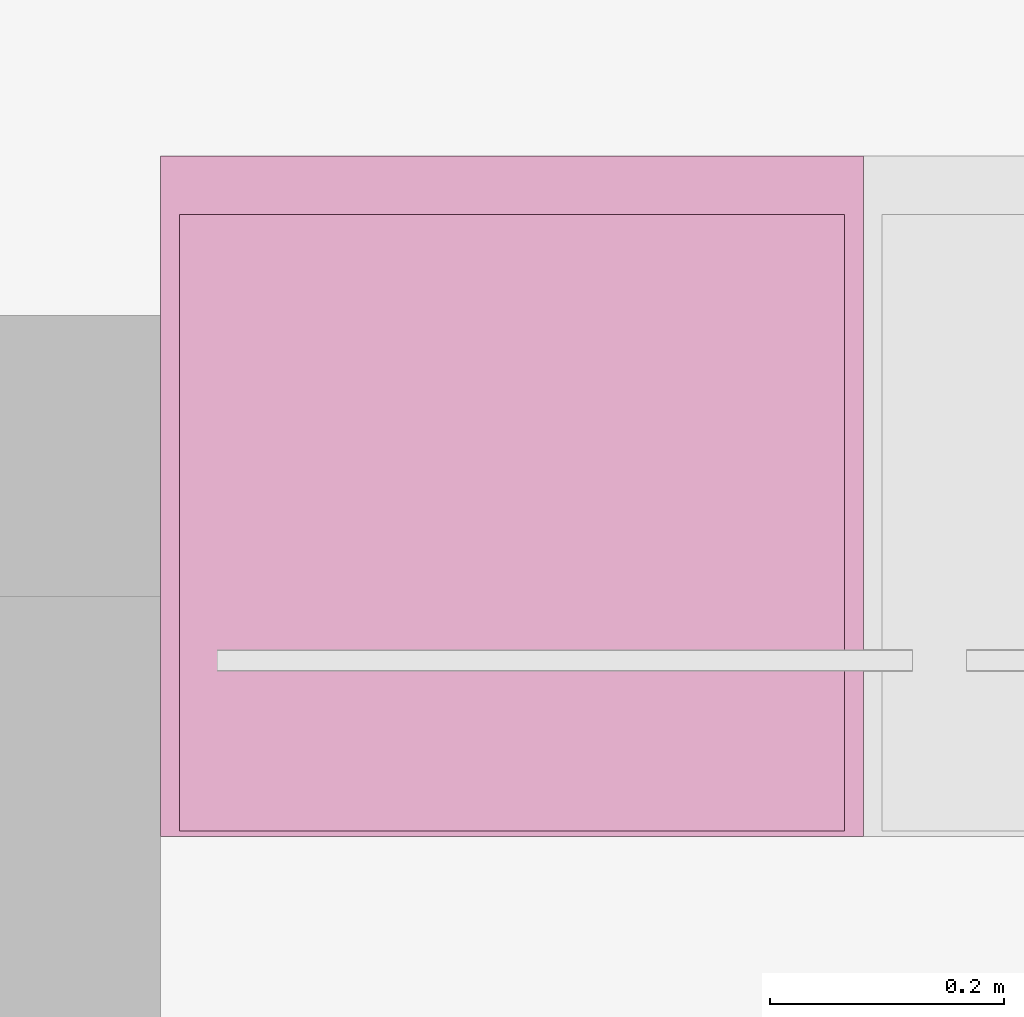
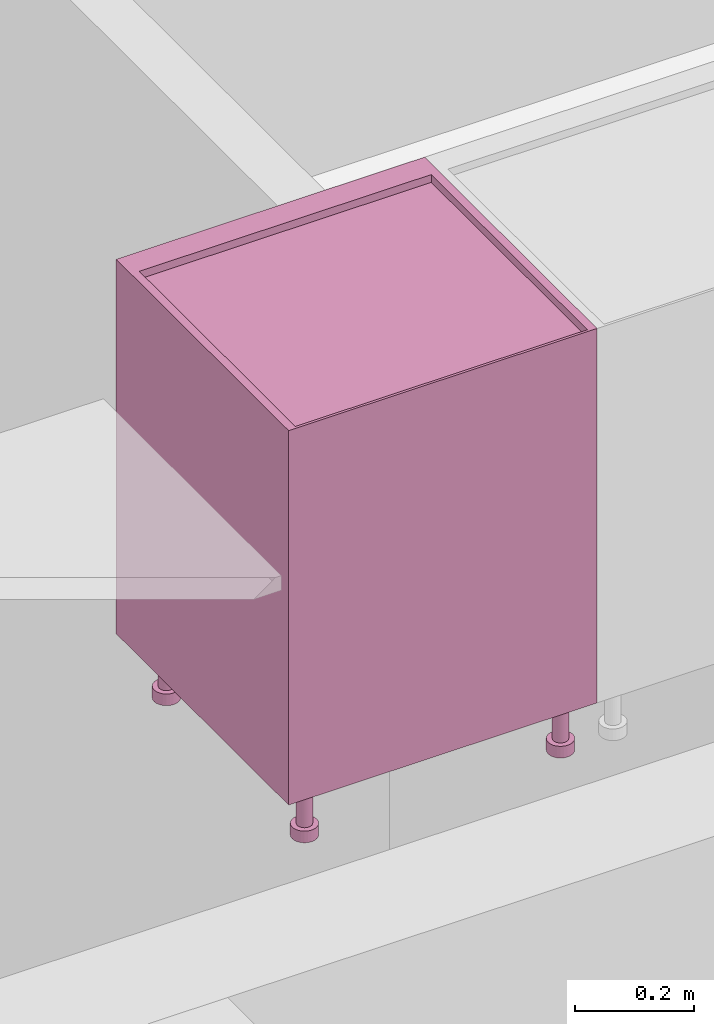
# One storey, part 32 of 68: 1 furnishing.
"""IFC2X3 building model written with IfcOpenShell, lengths in millimetres."""

from ifc_helpers import new_model, entity, si_unit, converted_unit, direction, frame, origin, place, context, subcontext, project, spatial, faceted_brep, source, transform, mapped, material, type_object, type_shapes, element, save


model = new_model("IFC2X3")

# Units and contexts
model_context = context("Model", 3, precision=0.01, world=origin(), true_north=direction((6.123233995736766e-17, 1.0)))
plan_context = context("Plan", 3, precision=0.01, world=origin(), true_north=direction((6.123233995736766e-17, 1.0)))
body_context = subcontext(model_context, "Body", "Model", "MODEL_VIEW")
ifc_project = project(units=[si_unit("LENGTHUNIT", "METRE", prefix="MILLI"), converted_unit("PLANEANGLEUNIT", "DEGREE", entity("IfcPlaneAngleMeasure", 0.017453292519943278), si_unit("PLANEANGLEUNIT", "RADIAN"), dimensions=[0, 0, 0, 0, 0, 0, 0]), si_unit("AREAUNIT", "SQUARE_METRE")], contexts=[model_context, plan_context])

# Site, building, storey, space
site_placement = place(None, origin())
site = spatial("IfcSite", under=ifc_project, at=site_placement, Name="Default", CompositionType="ELEMENT")
building_placement = place(site_placement, origin())
building = spatial("IfcBuilding", under=site, at=building_placement, CompositionType="ELEMENT")
storey_placement = place(building_placement, frame((0.0, 0.0, 6295.0)))
storey = spatial("IfcBuildingStorey", under=building, at=storey_placement, Name="3K", CompositionType="ELEMENT", Elevation=6294.999999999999)
space_placement = place(storey_placement, origin())
space = spatial("IfcSpace", under=storey, at=space_placement, Name="3-7.1", CompositionType="ELEMENT", InteriorOrExteriorSpace="INTERNAL")

# Furnishing
ifc_material = material(Name="<Unnamed>")
furniture_type = type_object("IfcFurnitureType", Name="HR_Casework_Kitchen_Generic_Appliance_v3:Dishwasher", AssemblyPlace="NOTDEFINED", material=ifc_material)
shared_shape = source(origin(), body_context, "Body", "Brep", [
    faceted_brep([(305.7003264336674, -585.7846096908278, -3101.0), (310.6708891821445, -581.9705627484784, -3101.0), (300.70032643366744, -577.1243556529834, -3101.0), (297.32379306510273, -578.5229615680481, -3101.0), (299.91198351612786, -588.1822198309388, -3101.0), (303.59982137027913, -574.8994949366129, -3101.0), (314.4849361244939, -577.0, -3101.0), (305.82468208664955, -572.0, -3101.0), (307.2232880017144, -568.6234666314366, -3101.0), (316.8825462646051, -571.2116570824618, -3101.0), (307.70032643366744, -565.0, -3101.0), (317.7003264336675, -565.0, -3101.0), (307.2232880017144, -561.3765333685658, -3101.0), (316.88254626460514, -558.7883429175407, -3101.0), (305.82468208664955, -558.0, -3101.0), (314.484936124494, -553.0, -3101.0), (303.59982137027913, -555.1005050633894, -3101.0), (310.67088918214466, -548.0294372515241, -3101.0), (300.70032643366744, -552.875644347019, -3101.0), (305.7003264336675, -544.2153903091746, -3101.0), (297.32379306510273, -551.4770384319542, -3101.0), (299.91198351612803, -541.8177801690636, -3101.0), (293.7003264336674, -551.0, -3101.0), (293.70032643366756, -541.0, -3101.0), (290.07685980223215, -551.4770384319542, -3101.0), (287.488669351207, -541.8177801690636, -3101.0), (286.70032643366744, -552.875644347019, -3101.0), (281.7003264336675, -544.2153903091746, -3101.0), (283.80083149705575, -555.1005050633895, -3101.0), (276.7297636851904, -548.029437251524, -3101.0), (281.5759707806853, -558.0, -3101.0), (272.91571674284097, -553.0, -3101.0), (270.51810660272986, -558.7883429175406, -3101.0), (280.1773648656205, -561.3765333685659, -3101.0), (269.7003264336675, -565.0, -3101.0), (279.7003264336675, -565.0, -3101.0), (270.51810660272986, -571.2116570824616, -3101.0), (280.1773648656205, -568.6234666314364, -3101.0), (272.9157167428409, -577.0, -3101.0), (281.57597078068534, -572.0, -3101.0), (276.7297636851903, -581.9705627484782, -3101.0), (283.80083149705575, -574.8994949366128, -3101.0), (281.70032643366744, -585.7846096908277, -3101.0), (286.70032643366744, -577.1243556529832, -3101.0), (287.4886693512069, -588.1822198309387, -3101.0), (290.07685980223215, -578.5229615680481, -3101.0), (293.7003264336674, -589.0, -3101.0), (293.70032643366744, -579.0, -3101.0), (299.91198351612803, -541.8177801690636, -3125.0), (305.7003264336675, -544.2153903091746, -3125.0), (310.67088918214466, -548.0294372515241, -3125.0), (314.484936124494, -553.0, -3125.0), (316.88254626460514, -558.7883429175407, -3125.0), (317.7003264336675, -565.0, -3125.0), (316.8825462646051, -571.2116570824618, -3125.0), (314.4849361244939, -577.0, -3125.0), (310.6708891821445, -581.9705627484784, -3125.0), (305.7003264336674, -585.7846096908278, -3125.0), (299.91198351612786, -588.1822198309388, -3125.0), (293.7003264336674, -589.0, -3125.0), (287.4886693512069, -588.1822198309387, -3125.0), (281.70032643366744, -585.7846096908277, -3125.0), (276.7297636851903, -581.9705627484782, -3125.0), (272.9157167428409, -577.0, -3125.0), (270.51810660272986, -571.2116570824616, -3125.0), (269.7003264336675, -565.0, -3125.0), (270.51810660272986, -558.7883429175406, -3125.0), (272.91571674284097, -553.0, -3125.0), (276.7297636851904, -548.029437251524, -3125.0), (281.7003264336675, -544.2153903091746, -3125.0), (287.488669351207, -541.8177801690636, -3125.0), (293.70032643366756, -541.0, -3125.0), (297.32379306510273, -578.5229615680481, -3025.0), (300.70032643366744, -577.1243556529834, -3025.0), (303.59982137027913, -574.8994949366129, -3025.0), (305.8246820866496, -572.0, -3025.0), (307.2232880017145, -568.6234666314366, -3025.0), (307.70032643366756, -565.0, -3025.0), (307.2232880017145, -561.3765333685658, -3025.0), (305.8246820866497, -558.0, -3025.0), (303.5998213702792, -555.1005050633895, -3025.0), (300.70032643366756, -552.875644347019, -3025.0), (297.32379306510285, -551.4770384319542, -3025.0), (293.70032643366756, -551.0, -3025.0), (290.07685980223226, -551.4770384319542, -3025.0), (286.70032643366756, -552.875644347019, -3025.0), (283.80083149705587, -555.1005050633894, -3025.0), (281.5759707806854, -558.0, -3025.0), (280.1773648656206, -561.3765333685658, -3025.0), (279.70032643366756, -565.0, -3025.0), (280.1773648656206, -568.6234666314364, -3025.0), (281.5759707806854, -572.0, -3025.0), (283.8008314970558, -574.8994949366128, -3025.0), (286.7003264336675, -577.1243556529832, -3025.0), (290.07685980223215, -578.5229615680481, -3025.0), (293.70032643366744, -579.0, -3025.0)], [[[0, 1, 2]], [[0, 2, 3]], [[3, 4, 0]], [[2, 1, 5]], [[6, 5, 1]], [[7, 5, 6]], [[8, 7, 6]], [[8, 6, 9]], [[8, 9, 10]], [[10, 9, 11]], [[12, 10, 11]], [[12, 11, 13]], [[14, 12, 13]], [[14, 13, 15]], [[16, 14, 15]], [[15, 17, 16]], [[17, 18, 16]], [[18, 17, 19]], [[18, 19, 20]], [[21, 20, 19]], [[20, 21, 22]], [[22, 21, 23]], [[23, 24, 22]], [[24, 23, 25]], [[24, 25, 26]], [[27, 26, 25]], [[27, 28, 26]], [[27, 29, 28]], [[30, 28, 29]], [[31, 30, 29]], [[32, 30, 31]], [[33, 30, 32]], [[33, 32, 34]], [[34, 35, 33]], [[36, 35, 34]], [[36, 37, 35]], [[37, 36, 38]], [[39, 37, 38]], [[39, 38, 40]], [[39, 40, 41]], [[40, 42, 41]], [[41, 42, 43]], [[43, 42, 44]], [[44, 45, 43]], [[46, 45, 44]], [[4, 47, 46]], [[45, 46, 47]], [[4, 3, 47]], [[48, 49, 50, 51, 52, 53, 54, 55, 56, 57, 58, 59, 60, 61, 62, 63, 64, 65, 66, 67, 68, 69, 70, 71]], [[64, 36, 34, 65]], [[63, 38, 36, 64]], [[42, 40, 62, 61]], [[63, 62, 40, 38]], [[44, 42, 61, 60]], [[46, 44, 60, 59]], [[58, 4, 46, 59]], [[57, 0, 4, 58]], [[54, 53, 11, 9]], [[1, 0, 57, 56]], [[6, 55, 54, 9]], [[6, 1, 56, 55]], [[52, 13, 11, 53]], [[51, 15, 13, 52]], [[19, 17, 50, 49]], [[51, 50, 17, 15]], [[21, 19, 49, 48]], [[23, 21, 48, 71]], [[27, 69, 68, 29]], [[31, 67, 66, 32]], [[68, 67, 31, 29]], [[32, 66, 65, 34]], [[25, 70, 69, 27]], [[70, 25, 23, 71]], [[72, 73, 74, 75, 76, 77, 78, 79, 80, 81, 82, 83, 84, 85, 86, 87, 88, 89, 90, 91, 92, 93, 94, 95]], [[37, 39, 91, 90]], [[35, 37, 90, 89]], [[43, 45, 94, 93]], [[41, 43, 93, 92]], [[39, 41, 92, 91]], [[47, 95, 94, 45]], [[2, 5, 74, 73]], [[3, 2, 73, 72]], [[8, 10, 77, 76]], [[7, 8, 76, 75]], [[5, 7, 75, 74]], [[3, 72, 95, 47]], [[79, 78, 12, 14]], [[78, 77, 10, 12]], [[80, 16, 18, 81]], [[16, 80, 79, 14]], [[81, 18, 20, 82]], [[22, 83, 82, 20]], [[26, 28, 86, 85]], [[24, 26, 85, 84]], [[33, 35, 89, 88]], [[30, 33, 88, 87]], [[28, 30, 87, 86]], [[24, 84, 83, 22]]]),
    faceted_brep([(-192.29967356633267, -585.7846096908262, -3101.0), (-187.3291108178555, -581.9705627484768, -3101.0), (-197.29967356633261, -577.1243556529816, -3101.0), (-200.67620693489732, -578.5229615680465, -3101.0), (-198.08801648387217, -588.1822198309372, -3101.0), (-194.40017862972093, -574.8994949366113, -3101.0), (-183.51506387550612, -577.0, -3101.0), (-192.17531791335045, -572.0, -3101.0), (-190.77671199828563, -568.6234666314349, -3101.0), (-181.11745373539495, -571.2116570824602, -3101.0), (-190.29967356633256, -565.0, -3101.0), (-180.29967356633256, -565.0, -3101.0), (-190.77671199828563, -561.3765333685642, -3101.0), (-181.11745373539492, -558.788342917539, -3101.0), (-192.17531791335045, -558.0, -3101.0), (-183.515063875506, -553.0, -3101.0), (-194.40017862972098, -555.1005050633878, -3101.0), (-187.3291108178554, -548.0294372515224, -3101.0), (-197.29967356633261, -552.8756443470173, -3101.0), (-192.29967356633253, -544.215390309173, -3101.0), (-200.67620693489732, -551.4770384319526, -3101.0), (-198.08801648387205, -541.8177801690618, -3101.0), (-204.29967356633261, -551.0, -3101.0), (-204.29967356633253, -541.0, -3101.0), (-207.92314019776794, -551.4770384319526, -3101.0), (-210.51133064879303, -541.8177801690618, -3101.0), (-211.29967356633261, -552.8756443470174, -3101.0), (-216.29967356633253, -544.215390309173, -3101.0), (-214.19916850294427, -555.1005050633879, -3101.0), (-221.27023631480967, -548.0294372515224, -3101.0), (-216.42402921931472, -558.0, -3101.0), (-225.08428325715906, -553.0, -3101.0), (-227.48189339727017, -558.788342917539, -3101.0), (-217.8226351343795, -561.3765333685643, -3101.0), (-228.2996735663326, -565.0, -3101.0), (-218.29967356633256, -565.0, -3101.0), (-227.48189339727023, -571.21165708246, -3101.0), (-217.8226351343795, -568.6234666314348, -3101.0), (-225.08428325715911, -577.0, -3101.0), (-216.42402921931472, -572.0, -3101.0), (-221.27023631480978, -581.9705627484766, -3101.0), (-214.19916850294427, -574.8994949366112, -3101.0), (-216.29967356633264, -585.784609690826, -3101.0), (-211.29967356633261, -577.1243556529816, -3101.0), (-210.51133064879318, -588.1822198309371, -3101.0), (-207.9231401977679, -578.5229615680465, -3101.0), (-204.2996735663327, -589.0, -3101.0), (-204.29967356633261, -579.0, -3101.0), (-198.08801648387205, -541.8177801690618, -3125.0), (-192.29967356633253, -544.215390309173, -3125.0), (-187.3291108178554, -548.0294372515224, -3125.0), (-183.515063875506, -553.0, -3125.0), (-181.11745373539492, -558.788342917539, -3125.0), (-180.29967356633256, -565.0, -3125.0), (-181.11745373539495, -571.2116570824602, -3125.0), (-183.51506387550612, -577.0, -3125.0), (-187.3291108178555, -581.9705627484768, -3125.0), (-192.29967356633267, -585.7846096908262, -3125.0), (-198.08801648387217, -588.1822198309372, -3125.0), (-204.2996735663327, -589.0, -3125.0), (-210.51133064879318, -588.1822198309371, -3125.0), (-216.29967356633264, -585.784609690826, -3125.0), (-221.27023631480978, -581.9705627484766, -3125.0), (-225.08428325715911, -577.0, -3125.0), (-227.48189339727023, -571.21165708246, -3125.0), (-228.2996735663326, -565.0, -3125.0), (-227.48189339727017, -558.788342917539, -3125.0), (-225.08428325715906, -553.0, -3125.0), (-221.27023631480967, -548.0294372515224, -3125.0), (-216.29967356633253, -544.215390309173, -3125.0), (-210.51133064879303, -541.8177801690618, -3125.0), (-204.29967356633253, -541.0, -3125.0), (-200.67620693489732, -578.5229615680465, -3025.0), (-197.29967356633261, -577.1243556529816, -3025.0), (-194.40017862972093, -574.8994949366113, -3025.0), (-192.17531791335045, -572.0, -3025.0), (-190.77671199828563, -568.6234666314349, -3025.0), (-190.29967356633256, -565.0, -3025.0), (-190.77671199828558, -561.3765333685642, -3025.0), (-192.1753179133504, -558.0, -3025.0), (-194.40017862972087, -555.1005050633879, -3025.0), (-197.29967356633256, -552.8756443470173, -3025.0), (-200.67620693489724, -551.4770384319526, -3025.0), (-204.29967356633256, -551.0, -3025.0), (-207.92314019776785, -551.4770384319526, -3025.0), (-211.29967356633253, -552.8756443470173, -3025.0), (-214.1991685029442, -555.1005050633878, -3025.0), (-216.4240292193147, -558.0, -3025.0), (-217.8226351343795, -561.3765333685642, -3025.0), (-218.29967356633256, -565.0, -3025.0), (-217.8226351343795, -568.6234666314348, -3025.0), (-216.42402921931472, -572.0, -3025.0), (-214.19916850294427, -574.8994949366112, -3025.0), (-211.2996735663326, -577.1243556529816, -3025.0), (-207.9231401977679, -578.5229615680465, -3025.0), (-204.29967356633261, -579.0, -3025.0)], [[[0, 1, 2]], [[0, 2, 3]], [[3, 4, 0]], [[2, 1, 5]], [[6, 5, 1]], [[7, 5, 6]], [[8, 7, 6]], [[8, 6, 9]], [[8, 9, 10]], [[10, 9, 11]], [[12, 10, 11]], [[12, 11, 13]], [[14, 12, 13]], [[14, 13, 15]], [[16, 14, 15]], [[15, 17, 16]], [[17, 18, 16]], [[18, 17, 19]], [[18, 19, 20]], [[21, 20, 19]], [[20, 21, 22]], [[22, 21, 23]], [[23, 24, 22]], [[24, 23, 25]], [[24, 25, 26]], [[27, 26, 25]], [[27, 28, 26]], [[27, 29, 28]], [[30, 28, 29]], [[31, 30, 29]], [[32, 30, 31]], [[33, 30, 32]], [[33, 32, 34]], [[34, 35, 33]], [[36, 35, 34]], [[36, 37, 35]], [[37, 36, 38]], [[39, 37, 38]], [[39, 38, 40]], [[39, 40, 41]], [[40, 42, 41]], [[41, 42, 43]], [[43, 42, 44]], [[44, 45, 43]], [[46, 45, 44]], [[4, 47, 46]], [[45, 46, 47]], [[4, 3, 47]], [[48, 49, 50, 51, 52, 53, 54, 55, 56, 57, 58, 59, 60, 61, 62, 63, 64, 65, 66, 67, 68, 69, 70, 71]], [[64, 36, 34, 65]], [[63, 38, 36, 64]], [[42, 40, 62, 61]], [[63, 62, 40, 38]], [[44, 42, 61, 60]], [[46, 44, 60, 59]], [[58, 4, 46, 59]], [[57, 0, 4, 58]], [[54, 53, 11, 9]], [[1, 0, 57, 56]], [[6, 55, 54, 9]], [[6, 1, 56, 55]], [[52, 13, 11, 53]], [[51, 15, 13, 52]], [[19, 17, 50, 49]], [[51, 50, 17, 15]], [[21, 19, 49, 48]], [[23, 21, 48, 71]], [[27, 69, 68, 29]], [[31, 67, 66, 32]], [[68, 67, 31, 29]], [[32, 66, 65, 34]], [[25, 70, 69, 27]], [[70, 25, 23, 71]], [[72, 73, 74, 75, 76, 77, 78, 79, 80, 81, 82, 83, 84, 85, 86, 87, 88, 89, 90, 91, 92, 93, 94, 95]], [[37, 39, 91, 90]], [[35, 37, 90, 89]], [[43, 45, 94, 93]], [[41, 43, 93, 92]], [[39, 41, 92, 91]], [[47, 95, 94, 45]], [[2, 5, 74, 73]], [[3, 2, 73, 72]], [[8, 10, 77, 76]], [[7, 8, 76, 75]], [[5, 7, 75, 74]], [[3, 72, 95, 47]], [[79, 78, 12, 14]], [[78, 77, 10, 12]], [[80, 16, 18, 81]], [[16, 80, 79, 14]], [[81, 18, 20, 82]], [[22, 83, 82, 20]], [[26, 28, 86, 85]], [[24, 26, 85, 84]], [[33, 35, 89, 88]], [[30, 33, 88, 87]], [[28, 30, 87, 86]], [[24, 84, 83, 22]]]),
    faceted_brep([(305.70032643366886, -120.78460969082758, -3101.0), (310.670889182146, -116.97056274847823, -3101.0), (300.7003264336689, -112.12435565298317, -3101.0), (297.3237930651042, -113.52296156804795, -3101.0), (299.91198351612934, -123.18221983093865, -3101.0), (303.5998213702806, -109.8994949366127, -3101.0), (314.48493612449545, -112.0, -3101.0), (305.824682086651, -107.0, -3101.0), (307.2232880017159, -103.62346663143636, -3101.0), (316.88254626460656, -106.21165708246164, -3101.0), (307.700326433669, -100.0, -3101.0), (317.700326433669, -100.0, -3101.0), (307.2232880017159, -96.3765333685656, -3101.0), (316.8825462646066, -93.78834291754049, -3101.0), (305.824682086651, -93.0, -3101.0), (314.4849361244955, -88.0, -3101.0), (303.5998213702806, -90.10050506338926, -3101.0), (310.67088918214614, -83.02943725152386, -3101.0), (300.7003264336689, -87.8756443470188, -3101.0), (305.700326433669, -79.21539030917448, -3101.0), (297.3237930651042, -86.477038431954, -3101.0), (299.9119835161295, -76.81778016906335, -3101.0), (293.70032643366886, -86.0, -3101.0), (293.70032643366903, -76.0, -3101.0), (290.0768598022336, -86.47703843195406, -3101.0), (287.4886693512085, -76.81778016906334, -3101.0), (286.7003264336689, -87.87564434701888, -3101.0), (281.700326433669, -79.21539030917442, -3101.0), (283.8008314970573, -90.10050506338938, -3101.0), (276.72976368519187, -83.0294372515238, -3101.0), (281.5759707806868, -93.0, -3101.0), (272.91571674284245, -88.0, -3101.0), (270.51810660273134, -93.78834291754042, -3101.0), (280.177364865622, -96.37653336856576, -3101.0), (269.700326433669, -100.0, -3101.0), (279.700326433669, -100.0, -3101.0), (270.51810660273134, -106.2116570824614, -3101.0), (280.177364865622, -103.62346663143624, -3101.0), (272.9157167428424, -112.0, -3101.0), (281.5759707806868, -107.0, -3101.0), (276.72976368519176, -116.97056274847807, -3101.0), (283.8008314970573, -109.89949493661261, -3101.0), (281.7003264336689, -120.78460969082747, -3101.0), (286.7003264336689, -112.1243556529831, -3101.0), (287.4886693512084, -123.1822198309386, -3101.0), (290.0768598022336, -113.52296156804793, -3101.0), (293.70032643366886, -124.0, -3101.0), (293.7003264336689, -114.0, -3101.0), (299.9119835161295, -76.81778016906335, -3125.0), (305.700326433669, -79.21539030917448, -3125.0), (310.67088918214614, -83.02943725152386, -3125.0), (314.4849361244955, -88.0, -3125.0), (316.8825462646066, -93.78834291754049, -3125.0), (317.700326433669, -100.0, -3125.0), (316.88254626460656, -106.21165708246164, -3125.0), (314.48493612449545, -112.0, -3125.0), (310.670889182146, -116.97056274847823, -3125.0), (305.70032643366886, -120.78460969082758, -3125.0), (299.91198351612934, -123.18221983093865, -3125.0), (293.70032643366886, -124.0, -3125.0), (287.4886693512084, -123.1822198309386, -3125.0), (281.7003264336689, -120.78460969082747, -3125.0), (276.72976368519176, -116.97056274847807, -3125.0), (272.9157167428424, -112.0, -3125.0), (270.51810660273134, -106.2116570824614, -3125.0), (269.700326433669, -100.0, -3125.0), (270.51810660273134, -93.78834291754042, -3125.0), (272.91571674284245, -88.0, -3125.0), (276.72976368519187, -83.0294372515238, -3125.0), (281.700326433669, -79.21539030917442, -3125.0), (287.4886693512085, -76.81778016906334, -3125.0), (293.70032643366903, -76.0, -3125.0), (297.32379306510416, -113.52296156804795, -3025.0), (300.70032643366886, -112.12435565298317, -3025.0), (303.59982137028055, -109.8994949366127, -3025.0), (305.824682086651, -107.0, -3025.0), (307.22328800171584, -103.62346663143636, -3025.0), (307.700326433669, -100.0, -3025.0), (307.2232880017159, -96.3765333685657, -3025.0), (305.82468208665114, -93.0, -3025.0), (303.5998213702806, -90.10050506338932, -3025.0), (300.700326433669, -87.87564434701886, -3025.0), (297.32379306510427, -86.47703843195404, -3025.0), (293.700326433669, -86.0, -3025.0), (290.0768598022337, -86.47703843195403, -3025.0), (286.700326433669, -87.87564434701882, -3025.0), (283.8008314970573, -90.1005050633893, -3025.0), (281.5759707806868, -93.0, -3025.0), (280.177364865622, -96.37653336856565, -3025.0), (279.700326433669, -100.0, -3025.0), (280.177364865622, -103.62346663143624, -3025.0), (281.5759707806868, -107.0, -3025.0), (283.80083149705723, -109.89949493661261, -3025.0), (286.7003264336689, -112.1243556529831, -3025.0), (290.07685980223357, -113.52296156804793, -3025.0), (293.70032643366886, -114.0, -3025.0)], [[[0, 1, 2]], [[0, 2, 3]], [[3, 4, 0]], [[2, 1, 5]], [[6, 5, 1]], [[7, 5, 6]], [[8, 7, 6]], [[8, 6, 9]], [[8, 9, 10]], [[10, 9, 11]], [[12, 10, 11]], [[12, 11, 13]], [[14, 12, 13]], [[14, 13, 15]], [[16, 14, 15]], [[15, 17, 16]], [[17, 18, 16]], [[18, 17, 19]], [[18, 19, 20]], [[21, 20, 19]], [[20, 21, 22]], [[22, 21, 23]], [[23, 24, 22]], [[24, 23, 25]], [[24, 25, 26]], [[27, 26, 25]], [[27, 28, 26]], [[27, 29, 28]], [[30, 28, 29]], [[31, 30, 29]], [[32, 30, 31]], [[33, 30, 32]], [[33, 32, 34]], [[34, 35, 33]], [[36, 35, 34]], [[36, 37, 35]], [[37, 36, 38]], [[39, 37, 38]], [[39, 38, 40]], [[39, 40, 41]], [[40, 42, 41]], [[41, 42, 43]], [[43, 42, 44]], [[44, 45, 43]], [[46, 45, 44]], [[4, 47, 46]], [[45, 46, 47]], [[4, 3, 47]], [[48, 49, 50, 51, 52, 53, 54, 55, 56, 57, 58, 59, 60, 61, 62, 63, 64, 65, 66, 67, 68, 69, 70, 71]], [[64, 36, 34, 65]], [[63, 38, 36, 64]], [[42, 40, 62, 61]], [[63, 62, 40, 38]], [[44, 42, 61, 60]], [[46, 44, 60, 59]], [[58, 4, 46, 59]], [[57, 0, 4, 58]], [[54, 53, 11, 9]], [[1, 0, 57, 56]], [[6, 55, 54, 9]], [[6, 1, 56, 55]], [[52, 13, 11, 53]], [[51, 15, 13, 52]], [[19, 17, 50, 49]], [[51, 50, 17, 15]], [[21, 19, 49, 48]], [[23, 21, 48, 71]], [[27, 69, 68, 29]], [[31, 67, 66, 32]], [[68, 67, 31, 29]], [[32, 66, 65, 34]], [[25, 70, 69, 27]], [[70, 25, 23, 71]], [[72, 73, 74, 75, 76, 77, 78, 79, 80, 81, 82, 83, 84, 85, 86, 87, 88, 89, 90, 91, 92, 93, 94, 95]], [[37, 39, 91, 90]], [[35, 37, 90, 89]], [[43, 45, 94, 93]], [[41, 43, 93, 92]], [[39, 41, 92, 91]], [[47, 95, 94, 45]], [[2, 5, 74, 73]], [[3, 2, 73, 72]], [[8, 10, 77, 76]], [[7, 8, 76, 75]], [[5, 7, 75, 74]], [[3, 72, 95, 47]], [[79, 78, 12, 14]], [[78, 77, 10, 12]], [[80, 16, 18, 81]], [[16, 80, 79, 14]], [[81, 18, 20, 82]], [[22, 83, 82, 20]], [[26, 28, 86, 85]], [[24, 26, 85, 84]], [[33, 35, 89, 88]], [[30, 33, 88, 87]], [[28, 30, 87, 86]], [[24, 84, 83, 22]]]),
    faceted_brep([(-192.299673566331, -120.78460969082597, -3101.0), (-187.3291108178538, -116.97056274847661, -3101.0), (-197.29967356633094, -112.12435565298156, -3101.0), (-200.67620693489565, -113.52296156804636, -3101.0), (-198.0880164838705, -123.18221983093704, -3101.0), (-194.40017862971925, -109.89949493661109, -3101.0), (-183.5150638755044, -112.0, -3101.0), (-192.17531791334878, -107.0, -3101.0), (-190.77671199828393, -103.62346663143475, -3101.0), (-181.11745373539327, -106.21165708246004, -3101.0), (-190.29967356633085, -100.0, -3101.0), (-180.29967356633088, -100.0, -3101.0), (-190.77671199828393, -96.376533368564, -3101.0), (-181.11745373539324, -93.78834291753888, -3101.0), (-192.17531791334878, -93.0, -3101.0), (-183.51506387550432, -88.0, -3101.0), (-194.40017862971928, -90.10050506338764, -3101.0), (-187.32911081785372, -83.02943725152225, -3101.0), (-197.29967356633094, -87.8756443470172, -3101.0), (-192.29967356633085, -79.21539030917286, -3101.0), (-200.67620693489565, -86.4770384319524, -3101.0), (-198.08801648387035, -76.81778016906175, -3101.0), (-204.29967356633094, -86.0, -3101.0), (-204.29967356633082, -76.0, -3101.0), (-207.92314019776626, -86.47703843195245, -3101.0), (-210.51133064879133, -76.81778016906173, -3101.0), (-211.29967356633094, -87.87564434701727, -3101.0), (-216.29967356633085, -79.21539030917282, -3101.0), (-214.19916850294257, -90.10050506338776, -3101.0), (-221.270236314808, -83.0294372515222, -3101.0), (-216.424029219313, -93.0, -3101.0), (-225.08428325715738, -88.0, -3101.0), (-227.4818933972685, -93.78834291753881, -3101.0), (-217.82263513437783, -96.37653336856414, -3101.0), (-228.29967356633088, -100.0, -3101.0), (-218.29967356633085, -100.0, -3101.0), (-227.48189339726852, -106.2116570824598, -3101.0), (-217.82263513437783, -103.62346663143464, -3101.0), (-225.08428325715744, -112.0, -3101.0), (-216.424029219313, -107.0, -3101.0), (-221.27023631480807, -116.97056274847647, -3101.0), (-214.19916850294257, -109.899494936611, -3101.0), (-216.29967356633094, -120.78460969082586, -3101.0), (-211.29967356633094, -112.12435565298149, -3101.0), (-210.51133064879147, -123.18221983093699, -3101.0), (-207.9231401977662, -113.52296156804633, -3101.0), (-204.299673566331, -124.0, -3101.0), (-204.29967356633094, -114.0, -3101.0), (-198.08801648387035, -76.81778016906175, -3125.0), (-192.29967356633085, -79.21539030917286, -3125.0), (-187.32911081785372, -83.02943725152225, -3125.0), (-183.51506387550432, -88.0, -3125.0), (-181.11745373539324, -93.78834291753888, -3125.0), (-180.29967356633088, -100.0, -3125.0), (-181.11745373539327, -106.21165708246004, -3125.0), (-183.5150638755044, -112.0, -3125.0), (-187.3291108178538, -116.97056274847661, -3125.0), (-192.299673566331, -120.78460969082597, -3125.0), (-198.0880164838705, -123.18221983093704, -3125.0), (-204.299673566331, -124.0, -3125.0), (-210.51133064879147, -123.18221983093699, -3125.0), (-216.29967356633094, -120.78460969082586, -3125.0), (-221.27023631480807, -116.97056274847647, -3125.0), (-225.08428325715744, -112.0, -3125.0), (-227.48189339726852, -106.2116570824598, -3125.0), (-228.29967356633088, -100.0, -3125.0), (-227.4818933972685, -93.78834291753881, -3125.0), (-225.08428325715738, -88.0, -3125.0), (-221.270236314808, -83.0294372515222, -3125.0), (-216.29967356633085, -79.21539030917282, -3125.0), (-210.51133064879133, -76.81778016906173, -3125.0), (-204.29967356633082, -76.0, -3125.0), (-200.67620693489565, -113.52296156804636, -3025.0), (-197.29967356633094, -112.12435565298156, -3025.0), (-194.40017862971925, -109.89949493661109, -3025.0), (-192.17531791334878, -107.0, -3025.0), (-190.77671199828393, -103.62346663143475, -3025.0), (-190.29967356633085, -100.0, -3025.0), (-190.7767119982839, -96.3765333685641, -3025.0), (-192.1753179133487, -93.0, -3025.0), (-194.4001786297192, -90.10050506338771, -3025.0), (-197.29967356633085, -87.87564434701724, -3025.0), (-200.67620693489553, -86.47703843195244, -3025.0), (-204.29967356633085, -86.0, -3025.0), (-207.92314019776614, -86.47703843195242, -3025.0), (-211.29967356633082, -87.87564434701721, -3025.0), (-214.1991685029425, -90.10050506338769, -3025.0), (-216.42402921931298, -93.0, -3025.0), (-217.82263513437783, -96.37653336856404, -3025.0), (-218.29967356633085, -100.0, -3025.0), (-217.82263513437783, -103.62346663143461, -3025.0), (-216.424029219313, -107.0, -3025.0), (-214.19916850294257, -109.899494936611, -3025.0), (-211.29967356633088, -112.12435565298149, -3025.0), (-207.9231401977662, -113.52296156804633, -3025.0), (-204.29967356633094, -114.0, -3025.0)], [[[0, 1, 2]], [[0, 2, 3]], [[3, 4, 0]], [[2, 1, 5]], [[6, 5, 1]], [[7, 5, 6]], [[8, 7, 6]], [[8, 6, 9]], [[8, 9, 10]], [[10, 9, 11]], [[12, 10, 11]], [[12, 11, 13]], [[14, 12, 13]], [[14, 13, 15]], [[16, 14, 15]], [[15, 17, 16]], [[17, 18, 16]], [[18, 17, 19]], [[18, 19, 20]], [[21, 20, 19]], [[20, 21, 22]], [[22, 21, 23]], [[23, 24, 22]], [[24, 23, 25]], [[24, 25, 26]], [[27, 26, 25]], [[27, 28, 26]], [[27, 29, 28]], [[30, 28, 29]], [[31, 30, 29]], [[32, 30, 31]], [[33, 30, 32]], [[33, 32, 34]], [[34, 35, 33]], [[36, 35, 34]], [[36, 37, 35]], [[37, 36, 38]], [[39, 37, 38]], [[39, 38, 40]], [[39, 40, 41]], [[40, 42, 41]], [[41, 42, 43]], [[43, 42, 44]], [[44, 45, 43]], [[46, 45, 44]], [[4, 47, 46]], [[45, 46, 47]], [[4, 3, 47]], [[48, 49, 50, 51, 52, 53, 54, 55, 56, 57, 58, 59, 60, 61, 62, 63, 64, 65, 66, 67, 68, 69, 70, 71]], [[64, 36, 34, 65]], [[63, 38, 36, 64]], [[42, 40, 62, 61]], [[63, 62, 40, 38]], [[44, 42, 61, 60]], [[46, 44, 60, 59]], [[58, 4, 46, 59]], [[57, 0, 4, 58]], [[54, 53, 11, 9]], [[1, 0, 57, 56]], [[6, 55, 54, 9]], [[6, 1, 56, 55]], [[52, 13, 11, 53]], [[51, 15, 13, 52]], [[19, 17, 50, 49]], [[51, 50, 17, 15]], [[21, 19, 49, 48]], [[23, 21, 48, 71]], [[27, 69, 68, 29]], [[31, 67, 66, 32]], [[68, 67, 31, 29]], [[32, 66, 65, 34]], [[25, 70, 69, 27]], [[70, 25, 23, 71]], [[72, 73, 74, 75, 76, 77, 78, 79, 80, 81, 82, 83, 84, 85, 86, 87, 88, 89, 90, 91, 92, 93, 94, 95]], [[37, 39, 91, 90]], [[35, 37, 90, 89]], [[43, 45, 94, 93]], [[41, 43, 93, 92]], [[39, 41, 92, 91]], [[47, 95, 94, 45]], [[2, 5, 74, 73]], [[3, 2, 73, 72]], [[8, 10, 77, 76]], [[7, 8, 76, 75]], [[5, 7, 75, 74]], [[3, 72, 95, 47]], [[79, 78, 12, 14]], [[78, 77, 10, 12]], [[80, 16, 18, 81]], [[16, 80, 79, 14]], [[81, 18, 20, 82]], [[22, 83, 82, 20]], [[26, 28, 86, 85]], [[24, 26, 85, 84]], [[33, 35, 89, 88]], [[30, 33, 88, 87]], [[28, 30, 87, 86]], [[24, 84, 83, 22]]]),
    faceted_brep([(328.70032643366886, -19.0, -3009.0), (-239.2996735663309, -19.0, -3009.0), (-239.29967356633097, -595.0, -3009.0), (328.70032643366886, -595.0, -3009.0), (328.70032643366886, -19.0, -3025.0), (328.70032643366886, -595.0, -3025.0), (-239.29967356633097, -595.0, -3025.0), (-239.29967356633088, -19.0, -3025.0)], [[[0, 1, 2, 3]], [[4, 5, 6, 7]], [[1, 0, 4, 7]], [[2, 1, 7, 6]], [[3, 2, 6, 5]], [[0, 3, 5, 4]]]),
    faceted_brep([(-255.29967356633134, -19.0, -2255.0), (-255.2996735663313, -600.0, -2255.0), (344.7003264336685, -600.0, -2255.0), (344.7003264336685, -19.0, -2255.0), (328.70032643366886, -19.0, -2255.0), (328.70032643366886, -595.0, -2255.0), (-239.2996735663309, -595.0, -2255.0), (-239.2996735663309, -19.0, -2255.0), (-255.29967356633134, -19.0, -3025.0), (-239.2996735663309, -19.0, -3025.0), (-239.29967356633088, -595.0, -3025.0), (328.70032643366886, -595.0, -3025.0), (328.70032643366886, -19.0, -3025.0), (344.7003264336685, -19.0, -3025.0), (344.7003264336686, -600.0, -3025.0), (-255.2996735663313, -600.0, -3025.0)], [[[0, 1, 2, 3, 4, 5, 6, 7]], [[8, 9, 10, 11, 12, 13, 14, 15]], [[1, 0, 8, 15]], [[0, 7, 9, 8]], [[7, 6, 10, 9]], [[5, 4, 12, 11]], [[4, 3, 13, 12]], [[3, 2, 14, 13]], [[2, 1, 15, 14]], [[6, 5, 11, 10]]]),
    faceted_brep([(328.70032643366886, -69.0, -2255.0), (328.70032643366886, -19.0, -2255.0), (-239.29967356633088, -19.0, -2255.0), (-239.29967356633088, -69.0, -2255.0), (328.70032643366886, -69.0, -2271.0), (-239.29967356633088, -69.0, -2271.0), (-239.29967356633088, -19.0, -2271.0), (328.70032643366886, -19.0, -2271.0)], [[[0, 1, 2, 3]], [[4, 5, 6, 7]], [[0, 3, 5, 4]], [[3, 2, 6, 5]], [[2, 1, 7, 6]], [[1, 0, 4, 7]]]),
    faceted_brep([(328.7003264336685, -19.0, -2271.0), (-239.29967356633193, -19.0, -2271.0), (-239.2996735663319, -595.0, -2271.0), (328.7003264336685, -595.0, -2271.0), (328.7003264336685, -19.0, -3009.0), (328.7003264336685, -595.0, -3009.0), (-239.2996735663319, -595.0, -3009.0), (-239.2996735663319, -19.0, -3009.0)], [[[0, 1, 2, 3]], [[4, 5, 6, 7]], [[1, 0, 4, 7]], [[2, 1, 7, 6]], [[3, 2, 6, 5]], [[0, 3, 5, 4]]]),
])
type_shapes(furniture_type, [shared_shape])
furnishing_placement = place(space_placement, frame((12400.293208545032, 6800.0, 6295.000076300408)))
element("IfcFurnishingElement", 1, at=furnishing_placement, inside=space, type_object=furniture_type, material=ifc_material, Name="HR_Casework_Kitchen_Generic_Appliance_v3:Dishwasher", ObjectType="HR_Casework_Kitchen_Generic_Appliance_v3:Dishwasher", context=body_context, shape_type="MappedRepresentation", body=[
    mapped(shared_shape, transform((0.0, 0.0, 0.0), scale=1.0)),
])

save(model, "model.ifc")
